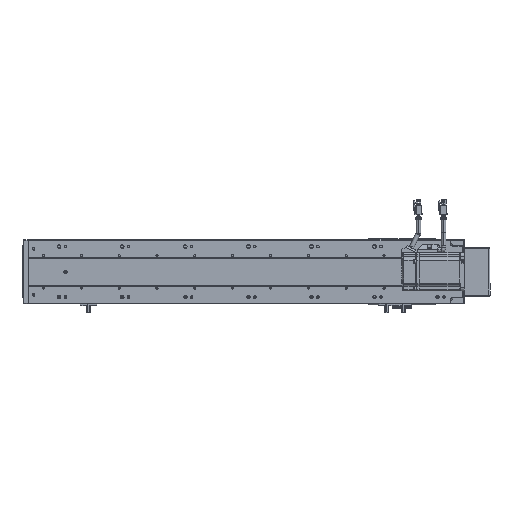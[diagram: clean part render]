
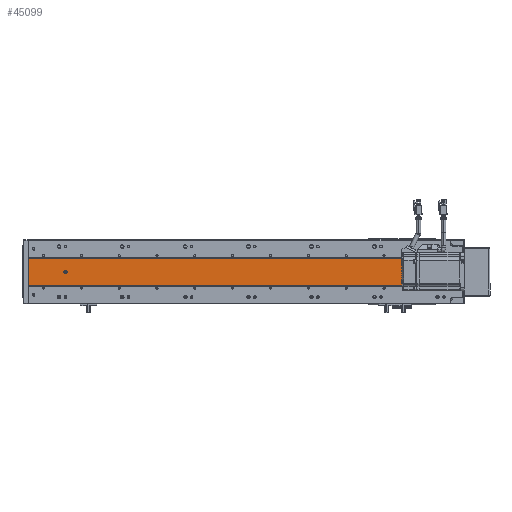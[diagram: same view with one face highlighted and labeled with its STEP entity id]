
A CAD part, front view. The second image highlights one B-rep face of the part: STEP entity #45099.
In plain terms, the highlighted planar face has unit normal (0, -1, 0).
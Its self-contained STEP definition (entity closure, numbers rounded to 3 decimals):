
#1206 = VERTEX_POINT ( 'NONE', #103427 ) ;
#1210 = VERTEX_POINT ( 'NONE', #103402 ) ;
#1228 = VERTEX_POINT ( 'NONE', #103291 ) ;
#1231 = VERTEX_POINT ( 'NONE', #103292 ) ;
#1246 = VERTEX_POINT ( 'NONE', #103308 ) ;
#1248 = VERTEX_POINT ( 'NONE', #103310 ) ;
#1258 = VERTEX_POINT ( 'NONE', #103321 ) ;
#1689 = VERTEX_POINT ( 'NONE', #103525 ) ;
#5500 = DIRECTION ( 'NONE',  ( 0., 0., -1. ) ) ;
#5514 = CARTESIAN_POINT ( 'NONE',  ( 118.817, 89.548, 689. ) ) ;
#5536 = DIRECTION ( 'NONE',  ( -1., 0., 0. ) ) ;
#5538 = DIRECTION ( 'NONE',  ( 0., 1., 0. ) ) ;
#5546 = DIRECTION ( 'NONE',  ( 0., 0., -1. ) ) ;
#5555 = CARTESIAN_POINT ( 'NONE',  ( 115.403, 89.548, 683. ) ) ;
#5562 = CARTESIAN_POINT ( 'NONE',  ( 161.989, 89.548, 689. ) ) ;
#5576 = DIRECTION ( 'NONE',  ( 1., 0., 0. ) ) ;
#5606 = CARTESIAN_POINT ( 'NONE',  ( 161.989, 89.548, 0. ) ) ;
#5905 = CARTESIAN_POINT ( 'NONE',  ( 115.403, 89.548, 673. ) ) ;
#5988 = DIRECTION ( 'NONE',  ( 0., 1., 0. ) ) ;
#6045 = DIRECTION ( 'NONE',  ( -1., 0., 0. ) ) ;
#6164 = CARTESIAN_POINT ( 'NONE',  ( 140.403, 89.548, 659. ) ) ;
#6165 = DIRECTION ( 'NONE',  ( 0., -1., 0. ) ) ;
#6167 = DIRECTION ( 'NONE',  ( 1., 0., 0. ) ) ;
#6331 = CARTESIAN_POINT ( 'NONE',  ( 140.403, 89.548, 59. ) ) ;
#6333 = DIRECTION ( 'NONE',  ( 1., 0., 0. ) ) ;
#6356 = DIRECTION ( 'NONE',  ( 0., -1., 0. ) ) ;
#7406 = EDGE_CURVE ( 'NONE', #1258, #1689, #48081, .T. ) ;
#7415 = EDGE_CURVE ( 'NONE', #1689, #1248, #48181, .T. ) ;
#7424 = EDGE_CURVE ( 'NONE', #1228, #88377, #48129, .T. ) ;
#7437 = EDGE_CURVE ( 'NONE', #1231, #1210, #48189, .T. ) ;
#7511 = EDGE_CURVE ( 'NONE', #1206, #1246, #48390, .T. ) ;
#7563 = EDGE_CURVE ( 'NONE', #88862, #88894, #48618, .T. ) ;
#7585 = EDGE_CURVE ( 'NONE', #88888, #88900, #48658, .T. ) ;
#11347 = EDGE_CURVE ( 'NONE', #88381, #88377, #38632, .T. ) ;
#11360 = EDGE_CURVE ( 'NONE', #88459, #88407, #38607, .T. ) ;
#11774 = EDGE_CURVE ( 'NONE', #88894, #88862, #38866, .T. ) ;
#11864 = EDGE_CURVE ( 'NONE', #88900, #88888, #38886, .T. ) ;
#12161 = EDGE_CURVE ( 'NONE', #1258, #1228, #39176, .T. ) ;
#12194 = EDGE_CURVE ( 'NONE', #88459, #1210, #39247, .T. ) ;
#12206 = EDGE_CURVE ( 'NONE', #1248, #1206, #39222, .T. ) ;
#12214 = EDGE_CURVE ( 'NONE', #88381, #88407, #39238, .T. ) ;
#12356 = EDGE_CURVE ( 'NONE', #1246, #1231, #39540, .T. ) ;
#15184 = EDGE_LOOP ( 'NONE', ( #50653, #50613 ) ) ;
#15208 = EDGE_LOOP ( 'NONE', ( #50701, #50616 ) ) ;
#15288 = EDGE_LOOP ( 'NONE', ( #50721, #50636, #50718, #50860, #50922, #50825, #50694, #50622, #50827, #50862, #50589, #50836 ) ) ;
#28335 = CARTESIAN_POINT ( 'NONE',  ( 161.989, 89.548, 689. ) ) ;
#28356 = DIRECTION ( 'NONE',  ( 1., 0., 0. ) ) ;
#28418 = DIRECTION ( 'NONE',  ( 0., 0., -1. ) ) ;
#28428 = CARTESIAN_POINT ( 'NONE',  ( 161.989, 89.548, 689. ) ) ;
#28430 = CARTESIAN_POINT ( 'NONE',  ( 118.817, 89.548, 689. ) ) ;
#28448 = DIRECTION ( 'NONE',  ( 0., 0., -1. ) ) ;
#28483 = DIRECTION ( 'NONE',  ( 0., 0., -1. ) ) ;
#28489 = CARTESIAN_POINT ( 'NONE',  ( 161.989, 89.548, 689. ) ) ;
#28872 = DIRECTION ( 'NONE',  ( 0., 0., -1. ) ) ;
#28884 = CARTESIAN_POINT ( 'NONE',  ( 118.817, 89.548, 689. ) ) ;
#37903 = CARTESIAN_POINT ( 'NONE',  ( 140.403, 89.548, 659. ) ) ;
#37908 = DIRECTION ( 'NONE',  ( 1., 0., 0. ) ) ;
#37924 = DIRECTION ( 'NONE',  ( 0., -1., 0. ) ) ;
#38068 = CARTESIAN_POINT ( 'NONE',  ( 140.403, 89.548, 59. ) ) ;
#38069 = DIRECTION ( 'NONE',  ( 1., 0., 0. ) ) ;
#38092 = DIRECTION ( 'NONE',  ( 0., -1., 0. ) ) ;
#38607 = CIRCLE ( 'NONE', #65948, 4.75 ) ;
#38632 = CIRCLE ( 'NONE', #65844, 4.75 ) ;
#38866 = CIRCLE ( 'NONE', #66081, 2.5 ) ;
#38886 = CIRCLE ( 'NONE', #66071, 2.5 ) ;
#39171 = VECTOR ( 'NONE', #28356, 1000. ) ;
#39176 = LINE ( 'NONE', #28335, #39171 ) ;
#39202 = VECTOR ( 'NONE', #28448, 1000. ) ;
#39216 = VECTOR ( 'NONE', #28483, 1000. ) ;
#39222 = LINE ( 'NONE', #28430, #39216 ) ;
#39234 = VECTOR ( 'NONE', #28418, 1000. ) ;
#39238 = LINE ( 'NONE', #28489, #39202 ) ;
#39247 = LINE ( 'NONE', #28428, #39234 ) ;
#39486 = VECTOR ( 'NONE', #28872, 1000. ) ;
#39540 = LINE ( 'NONE', #28884, #39486 ) ;
#41052 = CARTESIAN_POINT ( 'NONE',  ( 165.403, 89.548, 683. ) ) ;
#41064 = DIRECTION ( 'NONE',  ( 0., 1., 0. ) ) ;
#41089 = DIRECTION ( 'NONE',  ( -1., 0., 0. ) ) ;
#41108 = DIRECTION ( 'NONE',  ( -1., 0., 0. ) ) ;
#41123 = CARTESIAN_POINT ( 'NONE',  ( 165.403, 89.548, 673. ) ) ;
#41188 = DIRECTION ( 'NONE',  ( 0., 1., 0. ) ) ;
#45099 = ADVANCED_FACE ( 'NONE', ( #101192, #101203, #101147 ), #89617, .F. ) ;
#48009 = VECTOR ( 'NONE', #5500, 1000. ) ;
#48081 = LINE ( 'NONE', #5514, #48009 ) ;
#48117 = VECTOR ( 'NONE', #5546, 1000. ) ;
#48124 = VECTOR ( 'NONE', #5576, 1000. ) ;
#48129 = LINE ( 'NONE', #5562, #48117 ) ;
#48181 = CIRCLE ( 'NONE', #65544, 4.75 ) ;
#48189 = LINE ( 'NONE', #5606, #48124 ) ;
#48390 = CIRCLE ( 'NONE', #65631, 4.75 ) ;
#48618 = CIRCLE ( 'NONE', #65615, 2.5 ) ;
#48658 = CIRCLE ( 'NONE', #65650, 2.5 ) ;
#50589 = ORIENTED_EDGE ( 'NONE', *, *, #12194, .F. ) ;
#50613 = ORIENTED_EDGE ( 'NONE', *, *, #11774, .F. ) ;
#50616 = ORIENTED_EDGE ( 'NONE', *, *, #11864, .F. ) ;
#50622 = ORIENTED_EDGE ( 'NONE', *, *, #7511, .T. ) ;
#50636 = ORIENTED_EDGE ( 'NONE', *, *, #11347, .T. ) ;
#50653 = ORIENTED_EDGE ( 'NONE', *, *, #7563, .F. ) ;
#50694 = ORIENTED_EDGE ( 'NONE', *, *, #12206, .T. ) ;
#50701 = ORIENTED_EDGE ( 'NONE', *, *, #7585, .F. ) ;
#50718 = ORIENTED_EDGE ( 'NONE', *, *, #7424, .F. ) ;
#50721 = ORIENTED_EDGE ( 'NONE', *, *, #12214, .F. ) ;
#50825 = ORIENTED_EDGE ( 'NONE', *, *, #7415, .T. ) ;
#50827 = ORIENTED_EDGE ( 'NONE', *, *, #12356, .T. ) ;
#50836 = ORIENTED_EDGE ( 'NONE', *, *, #11360, .T. ) ;
#50860 = ORIENTED_EDGE ( 'NONE', *, *, #12161, .F. ) ;
#50862 = ORIENTED_EDGE ( 'NONE', *, *, #7437, .T. ) ;
#50922 = ORIENTED_EDGE ( 'NONE', *, *, #7406, .T. ) ;
#65544 = AXIS2_PLACEMENT_3D ( 'NONE', #5555, #5538, #5536 ) ;
#65615 = AXIS2_PLACEMENT_3D ( 'NONE', #6164, #6165, #6167 ) ;
#65631 = AXIS2_PLACEMENT_3D ( 'NONE', #5905, #5988, #6045 ) ;
#65650 = AXIS2_PLACEMENT_3D ( 'NONE', #6331, #6356, #6333 ) ;
#65844 = AXIS2_PLACEMENT_3D ( 'NONE', #41052, #41064, #41089 ) ;
#65948 = AXIS2_PLACEMENT_3D ( 'NONE', #41123, #41188, #41108 ) ;
#66071 = AXIS2_PLACEMENT_3D ( 'NONE', #38068, #38092, #38069 ) ;
#66081 = AXIS2_PLACEMENT_3D ( 'NONE', #37903, #37924, #37908 ) ;
#69769 = CARTESIAN_POINT ( 'NONE',  ( 161.989, 89.548, 676.302 ) ) ;
#69803 = CARTESIAN_POINT ( 'NONE',  ( 161.989, 89.548, 686.302 ) ) ;
#69814 = CARTESIAN_POINT ( 'NONE',  ( 161.989, 89.548, 679.698 ) ) ;
#69972 = CARTESIAN_POINT ( 'NONE',  ( 161.989, 89.548, 669.698 ) ) ;
#70298 = CARTESIAN_POINT ( 'NONE',  ( 142.903, 89.548, 659. ) ) ;
#70348 = CARTESIAN_POINT ( 'NONE',  ( 137.903, 89.548, 659. ) ) ;
#70378 = CARTESIAN_POINT ( 'NONE',  ( 137.903, 89.548, 59. ) ) ;
#70381 = CARTESIAN_POINT ( 'NONE',  ( 142.903, 89.548, 59. ) ) ;
#86694 = AXIS2_PLACEMENT_3D ( 'NONE', #89567, #89586, #89622 ) ;
#88377 = VERTEX_POINT ( 'NONE', #69803 ) ;
#88381 = VERTEX_POINT ( 'NONE', #69814 ) ;
#88407 = VERTEX_POINT ( 'NONE', #69769 ) ;
#88459 = VERTEX_POINT ( 'NONE', #69972 ) ;
#88862 = VERTEX_POINT ( 'NONE', #70298 ) ;
#88888 = VERTEX_POINT ( 'NONE', #70381 ) ;
#88894 = VERTEX_POINT ( 'NONE', #70348 ) ;
#88900 = VERTEX_POINT ( 'NONE', #70378 ) ;
#89567 = CARTESIAN_POINT ( 'NONE',  ( 161.989, 89.548, 689. ) ) ;
#89586 = DIRECTION ( 'NONE',  ( 0., 1., 0. ) ) ;
#89617 = PLANE ( 'NONE',  #86694 ) ;
#89622 = DIRECTION ( 'NONE',  ( -1., 0., 0. ) ) ;
#101147 = FACE_OUTER_BOUND ( 'NONE', #15288, .T. ) ;
#101192 = FACE_BOUND ( 'NONE', #15184, .T. ) ;
#101203 = FACE_BOUND ( 'NONE', #15208, .T. ) ;
#103291 = CARTESIAN_POINT ( 'NONE',  ( 161.989, 89.548, 689. ) ) ;
#103292 = CARTESIAN_POINT ( 'NONE',  ( 118.817, 89.548, 0. ) ) ;
#103308 = CARTESIAN_POINT ( 'NONE',  ( 118.817, 89.548, 669.698 ) ) ;
#103310 = CARTESIAN_POINT ( 'NONE',  ( 118.817, 89.548, 679.698 ) ) ;
#103321 = CARTESIAN_POINT ( 'NONE',  ( 118.817, 89.548, 689. ) ) ;
#103402 = CARTESIAN_POINT ( 'NONE',  ( 161.989, 89.548, 0. ) ) ;
#103427 = CARTESIAN_POINT ( 'NONE',  ( 118.817, 89.548, 676.302 ) ) ;
#103525 = CARTESIAN_POINT ( 'NONE',  ( 118.817, 89.548, 686.302 ) ) ;
